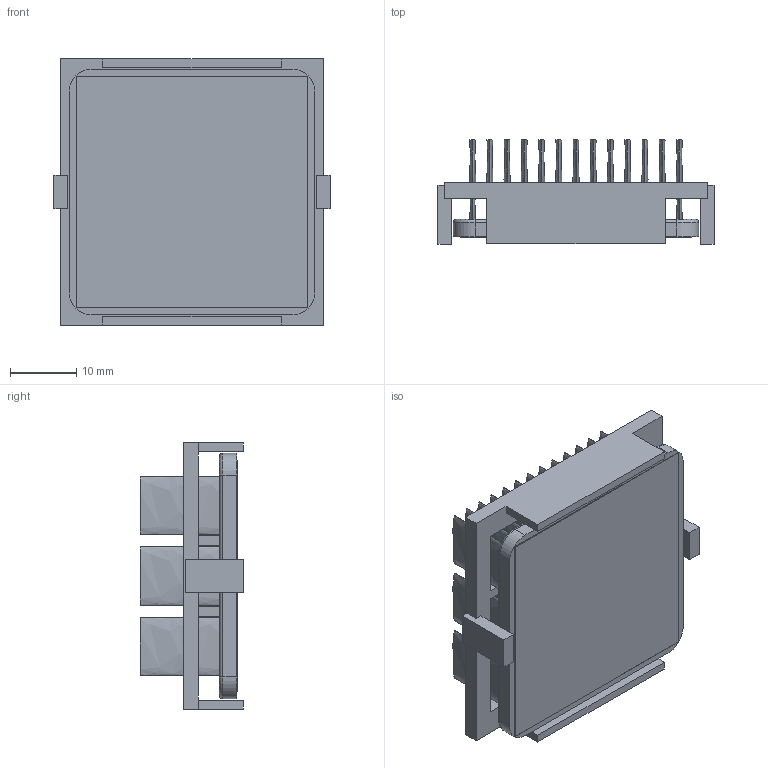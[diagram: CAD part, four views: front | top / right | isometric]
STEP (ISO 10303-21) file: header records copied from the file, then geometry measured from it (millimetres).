
FILE_DESCRIPTION (( 'STEP AP214' ), '1' );
FILE_NAME ('INM37.5001-15W-2.6O.STEP', '2023-02-21T00:58:20', ( '' ), ( '' ), 'SwSTEP 2.0', 'SolidWorks 2020', '' );
FILE_SCHEMA (( 'AUTOMOTIVE_DESIGN' ));
Length unit declared in the file: inch
Products named in the file (1): INM37.5001-15W-2.6O
Bounding box: 41.7 x 15.7 x 40.2 mm (x, y, z)
Volume: 8703.7 mm3; surface area: 16851.7 mm2
Topology: 3 solids, 3 shells, 195 faces, 442 edges, 292 vertices
Faces by surface type: plane 105, bspline 78, cylinder 8, torus 4
Entity records: 8187 total; most frequent: CARTESIAN_POINT 1944, ORIENTED_EDGE 884, DIRECTION 542, EDGE_CURVE 442, VERTEX_POINT 292, VECTOR 266, LINE 266, EDGE_LOOP 236
